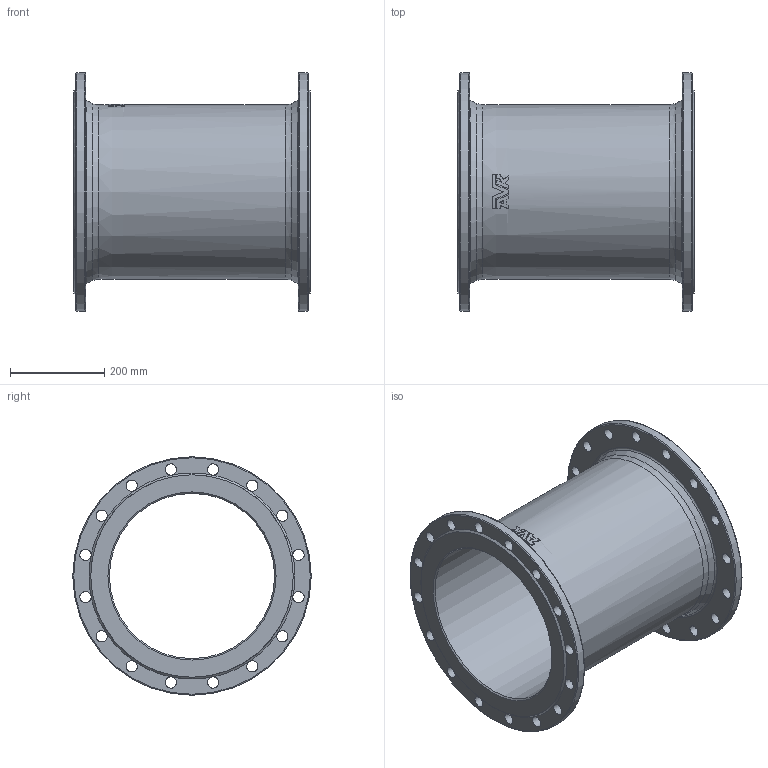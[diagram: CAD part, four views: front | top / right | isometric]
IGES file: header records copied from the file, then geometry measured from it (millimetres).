
Start section: SolidWorks IGES file using analytic representation for surfaces
Global section: file name: \\avksan2\techshare\PBM outline export from Enovia\O_712_4810_DN350_0X_REV01.igs; native system: SolidWorks 2019; preprocessor: SolidWorks 2019; author: pbm; date: 211201.115036; units: millimetre
Bounding box: 500 x 505 x 505 mm (x, y, z)
Surface area: 1529725.2 mm2 (no closed solid volume)
Topology: 0 solids, 0 shells, 97 faces, 612 edges, 561 vertices
Faces by surface type: revolution 54, bspline 43
